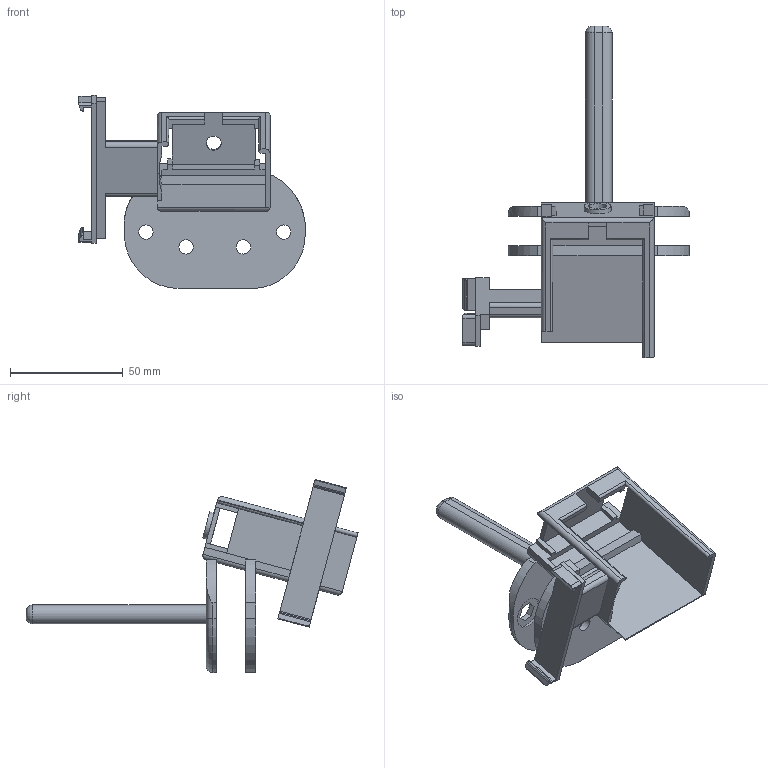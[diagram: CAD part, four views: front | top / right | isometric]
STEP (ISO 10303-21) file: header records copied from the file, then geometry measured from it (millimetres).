
FILE_DESCRIPTION(('Open CASCADE Model'),'2;1');
FILE_NAME('Open CASCADE Shape Model','2026-11-14T14:49:22',('Author'),( 'Open CASCADE'),'Open CASCADE STEP processor 8.0','Open CASCADE 8.0' ,'Unknown');
FILE_SCHEMA(('AUTOMOTIVE_DESIGN { 1 0 10303 214 1 1 1 1 }'));
Length unit declared in the file: millimetre
Products named in the file (1): Open CASCADE STEP translator 8.0 2
Bounding box: 100.51 x 147.39 x 85.69 mm (x, y, z)
Volume: 59085.8 mm3; surface area: 36686.6 mm2
Topology: 1 solids, 1 shells, 195 faces, 539 edges, 351 vertices
Faces by surface type: plane 132, cylinder 57, torus 2, cone 2, revolution 2
Full cylindrical faces by diameter (mm): 6.4 x6, 6.6 x1, 8 x1, 12 x1, 14 x6
Entity records: 15169 total; most frequent: CARTESIAN_POINT 4298, DIRECTION 2049, LINE 1266, VECTOR 1266, ORIENTED_EDGE 1078, PCURVE 1078, DEFINITIONAL_REPRESENTATION 1078, EDGE_CURVE 539
